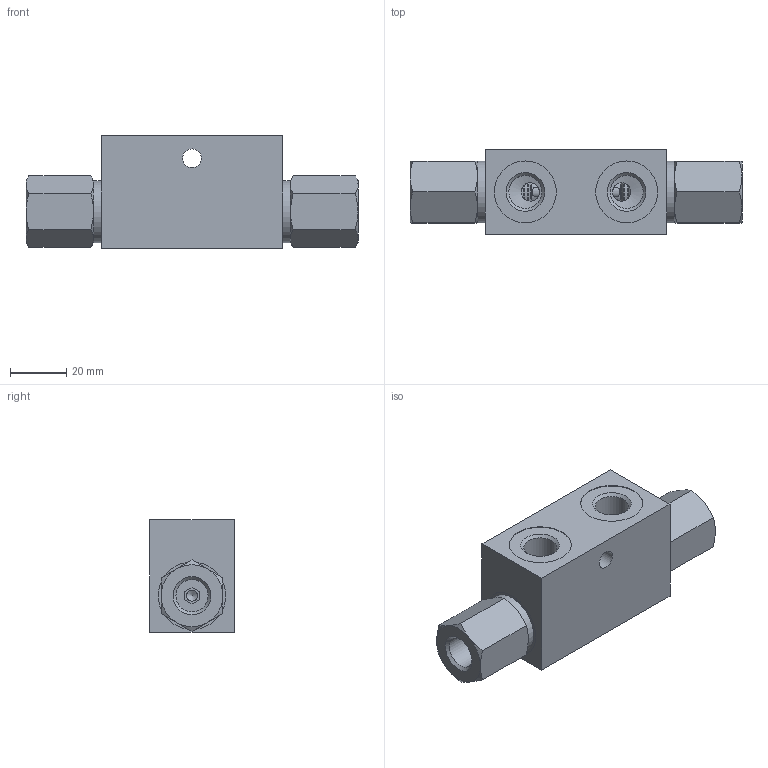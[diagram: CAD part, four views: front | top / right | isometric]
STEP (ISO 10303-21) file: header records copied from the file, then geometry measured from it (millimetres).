
FILE_DESCRIPTION(/* description */ (''),/* implementation_level */ '2;1');
FILE_NAME(/* name */ 'C:\Users\fabio.radici.LUEN\Desktop\N03-030-AJ0-A_Shrinkwrap.stp',/* time_stamp */ '2020-05-27T17:14:55+02:00',/* author */ ('Fabio Radici'),/* organization */ (''),/* preprocessor_version */ 'ST-DEVELOPER v18',/* originating_system */ 'Autodesk Inventor 2020',/* authorisation */ '');
FILE_SCHEMA (('AUTOMOTIVE_DESIGN { 1 0 10303 214 3 1 1 }'));
Length unit declared in the file: millimetre
Products named in the file (1): N03-030-AJ0-A_Shrinkwrap
Bounding box: 118 x 30 x 40 mm (x, y, z)
Surface area: 20797 mm2 (no closed solid volume)
Topology: 0 solids, 13 shells, 98 faces, 314 edges, 226 vertices
Faces by surface type: cone 40, plane 28, cylinder 24, torus 6
Full cylindrical faces by diameter (mm): 4 x4, 4.5 x2, 6.5 x2, 6.647 x1, 11.445 x2, 11.75 x2, 13 x2, 16 x2, 16.376 x1, 22 x4, 24 x2
Entity records: 4286 total; most frequent: CARTESIAN_POINT 1413, DIRECTION 568, ORIENTED_EDGE 549, EDGE_CURVE 312, AXIS2_PLACEMENT_3D 245, VERTEX_POINT 226, CIRCLE 146, EDGE_LOOP 121
